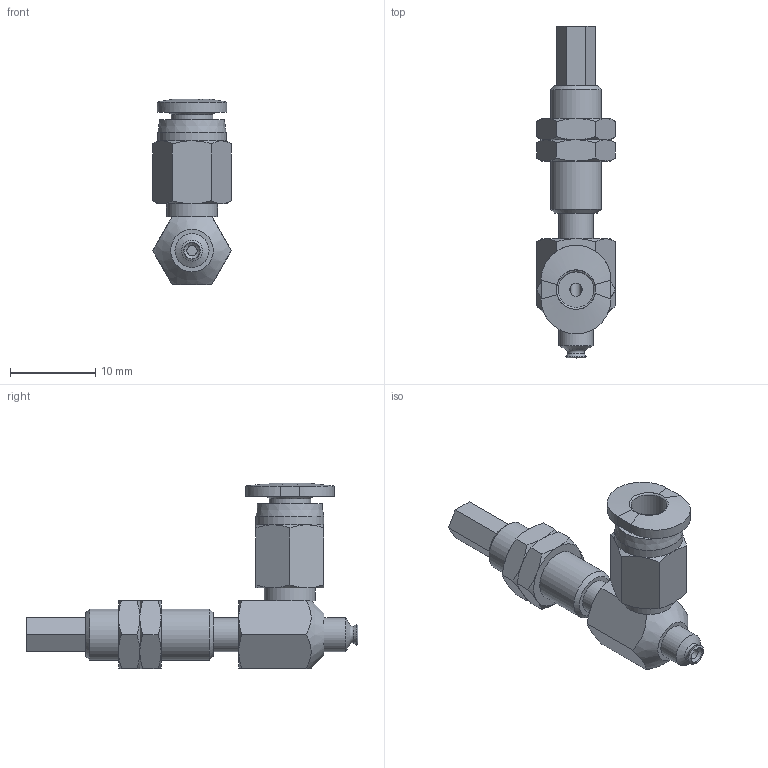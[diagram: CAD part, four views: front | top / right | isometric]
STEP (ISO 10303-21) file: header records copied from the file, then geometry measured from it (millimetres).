
FILE_DESCRIPTION(('STEP AP203'),'1');
FILE_NAME('-O.stp','2025-04-09T05:12:16',(' '),(' '),'Spatial InterOp 3D',' ',' ');
FILE_SCHEMA(('CONFIG_CONTROL_DESIGN'));
Length unit declared in the file: millimetre
Products named in the file (7): BNABPFYS-2A-3-※-O; CONNECTOR-2A-3; Nut-2A-3-s; NAPFTS-2A-3-FBODY; NAPFTS-2A-3-MBODY; BPFG-2A-※; PC-C_04-M3
Assembly tree (7 placements, depth 2):
  BNABPFYS-2A-3-※-O
    CONNECTOR-2A-3
    Nut-2A-3-s  x2
    NAPFTS-2A-3-FBODY
    NAPFTS-2A-3-MBODY
    BPFG-2A-※
    PC-C_04-M3
Bounding box: 9.24 x 39 x 21.77 mm (x, y, z)
Volume: 1222.3 mm3; surface area: 2592.5 mm2
Topology: 6 solids, 8 shells, 177 faces, 370 edges, 222 vertices
Faces by surface type: plane 73, cone 63, cylinder 24, torus 9, bspline 5, revolution 3
Full cylindrical faces by diameter (mm): 1.2 x2, 2 x2, 2.459 x2, 2.5 x2, 3 x4, 4 x3, 4.9 x1, 5.188 x2, 6 x2, 6.1 x1, 8 x1
Entity records: 4537 total; most frequent: CARTESIAN_POINT 1253, DIRECTION 611, ORIENTED_EDGE 524, AXIS2_PLACEMENT_3D 267, EDGE_CURVE 263, EDGE_LOOP 228, VERTEX_POINT 185, FACE_OUTER_BOUND 125
